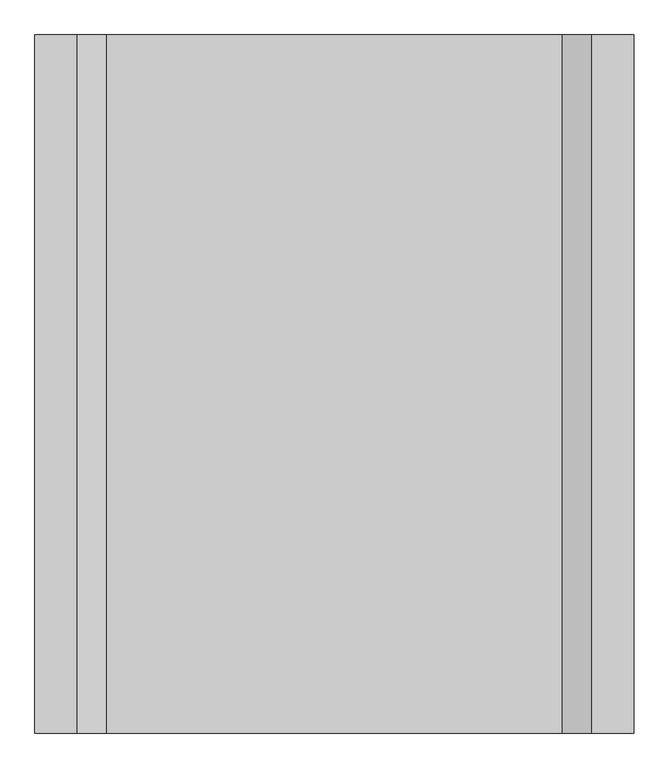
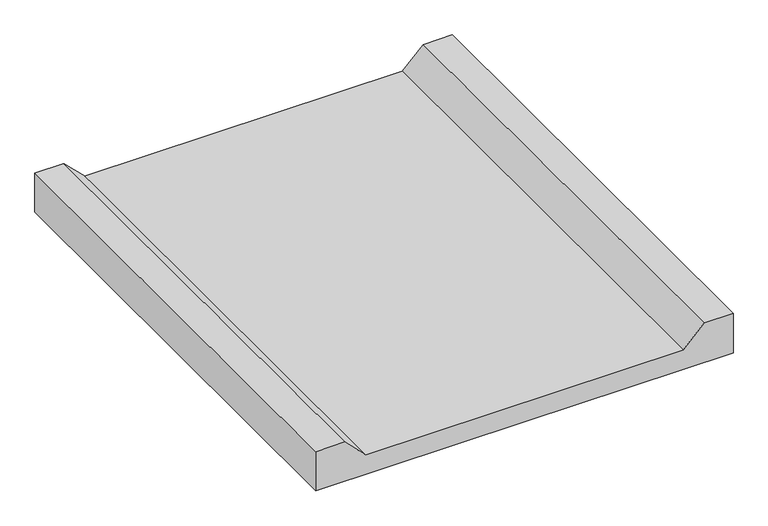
"""IFC4 building model written with IfcOpenShell, lengths in millimetres: proxy geometry, Traverse inférieur avec gousset : Traverse inférieur avec gousset 11.71m."""

from ifc_helpers import new_model, si_unit, frame, origin, place, context, project, spatial, polyline, outline, extrude, source, transform, mapped, element, save


def generic_models_23898a6b(model_context):
    return source(origin(), model_context, "Body", "SweptSolid", [
        extrude(outline(polyline([(0.0, -5025.0), (0.0, 0.0), (0.0, 5025.0), (1000.0, 5025.0), (1000.0, 4325.0), (500.0, 3825.0), (500.0, -3825.0), (1000.0, -4325.0), (1000.0, -5025.0), (0.0, -5025.0)])), frame((0.0, -11710.0, 0.0), z_axis=(0.0, 1.0, 0.0), x_axis=(0.0, 0.0, 1.0)), (0.0, 0.0, 1.0), 11710.0),
    ])


if __name__ == "__main__":
    model = new_model("IFC4")
    model_context = context("Model", 3, world=origin())
    ifc_project = project(units=[si_unit("LENGTHUNIT", "METRE", prefix="MILLI")], contexts=[model_context])
    site = spatial("IfcSite", under=ifc_project)
    building = spatial("IfcBuilding", under=site)
    placement = place(None, origin())
    generic_models_shape = generic_models_23898a6b(model_context)
    element("IfcBuildingElementProxy", 1, Name="Traverse inférieur avec gousset : Traverse inférieur avec gousset 11.71m", ObjectType="Traverse inférieur avec gousset : Traverse inférieur avec gousset 11.71m", at=placement, inside=building, context=model_context, shape_type="MappedRepresentation", body=[
        mapped(generic_models_shape, transform((0.0, 0.0, 0.0), x_axis=(1.0, 0.0, 0.0), y_axis=(0.0, 1.0, 0.0), z_axis=(0.0, 0.0, 1.0))),
    ])
    save(model, "model.ifc")
